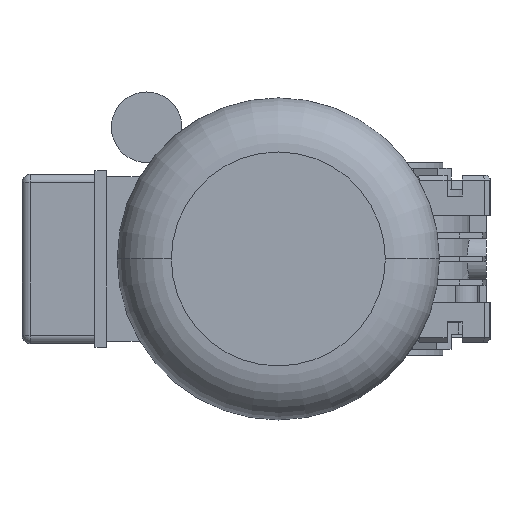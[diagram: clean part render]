
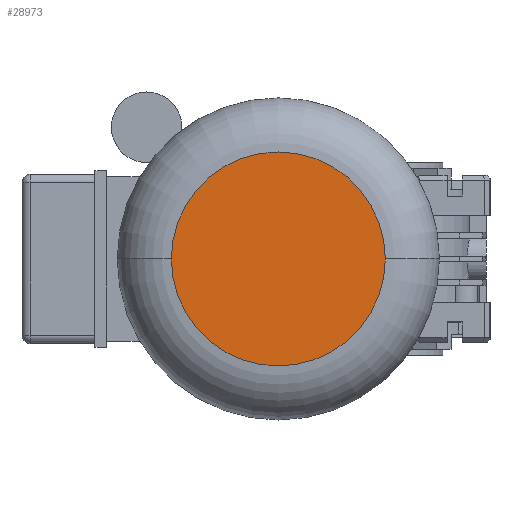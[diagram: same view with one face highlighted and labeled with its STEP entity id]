
A CAD part, left-side view. The second image highlights one B-rep face of the part: STEP entity #28973.
In plain terms, the highlighted planar face has unit normal (-1, 0, 0) as drawn and (0, 0, -1) by its records, which use the part's own axes.
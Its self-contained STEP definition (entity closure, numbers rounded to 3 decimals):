
#249 = DIRECTION ( 'NONE',  ( 0., 1., 0. ) ) ;
#671 = AXIS2_PLACEMENT_3D ( 'NONE', #36572, #36065, #249 ) ;
#2063 = PLANE ( 'NONE',  #2248 ) ;
#2248 = AXIS2_PLACEMENT_3D ( 'NONE', #37643, #10693, #34895 ) ;
#2692 = ORIENTED_EDGE ( 'NONE', *, *, #7074, .T. ) ;
#2708 = EDGE_LOOP ( 'NONE', ( #2692, #26108 ) ) ;
#4178 = AXIS2_PLACEMENT_3D ( 'NONE', #5880, #26761, #5755 ) ;
#5755 = DIRECTION ( 'NONE',  ( 0., 1., 0. ) ) ;
#5880 = CARTESIAN_POINT ( 'NONE',  ( 0., 0., -183. ) ) ;
#7074 = EDGE_CURVE ( 'NONE', #17076, #11653, #35156, .T. ) ;
#8470 = EDGE_CURVE ( 'NONE', #11653, #17076, #27481, .T. ) ;
#10693 = DIRECTION ( 'NONE',  ( 0., 0., -1. ) ) ;
#11653 = VERTEX_POINT ( 'NONE', #19764 ) ;
#17076 = VERTEX_POINT ( 'NONE', #21044 ) ;
#19764 = CARTESIAN_POINT ( 'NONE',  ( 0., -45.5, -183. ) ) ;
#21044 = CARTESIAN_POINT ( 'NONE',  ( 0., 45.5, -183. ) ) ;
#26108 = ORIENTED_EDGE ( 'NONE', *, *, #8470, .T. ) ;
#26761 = DIRECTION ( 'NONE',  ( 0., 0., -1. ) ) ;
#27481 = CIRCLE ( 'NONE', #671, 45.5 ) ;
#28973 = ADVANCED_FACE ( 'NONE', ( #36072 ), #2063, .T. ) ;
#34895 = DIRECTION ( 'NONE',  ( -1., 0., 0. ) ) ;
#35156 = CIRCLE ( 'NONE', #4178, 45.5 ) ;
#36065 = DIRECTION ( 'NONE',  ( 0., 0., -1. ) ) ;
#36072 = FACE_OUTER_BOUND ( 'NONE', #2708, .T. ) ;
#36572 = CARTESIAN_POINT ( 'NONE',  ( 0., 0., -183. ) ) ;
#37643 = CARTESIAN_POINT ( 'NONE',  ( 0., 0., -183. ) ) ;
